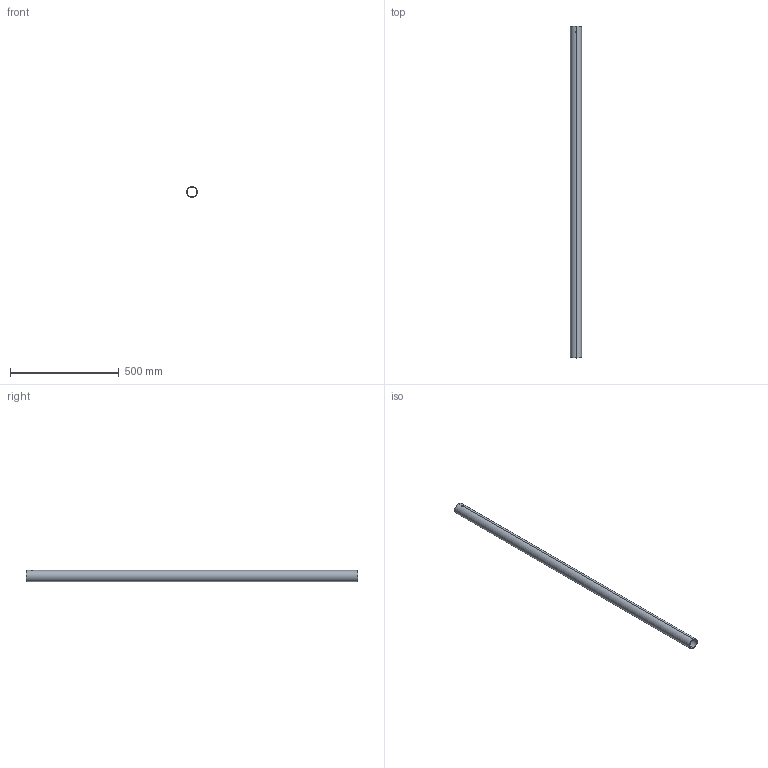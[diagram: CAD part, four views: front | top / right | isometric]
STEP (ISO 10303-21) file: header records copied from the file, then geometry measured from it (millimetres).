
FILE_DESCRIPTION (( 'STEP AP203' ), '1' );
FILE_NAME ('10-0505-00 REV 1, POLE, 2in OD x 5 FT.STEP', '2018-01-25T22:37:28', ( '' ), ( '' ), 'SwSTEP 2.0', 'SolidWorks 2012', '' );
FILE_SCHEMA (( 'CONFIG_CONTROL_DESIGN' ));
Length unit declared in the file: inch
Products named in the file (1): 10-0505-00 REV 1, POLE, 2in OD x 5 FT
Bounding box: 50.8 x 1524 x 50.8 mm (x, y, z)
Volume: 696738.7 mm3; surface area: 458158.7 mm2
Topology: 1 solids, 1 shells, 8 faces, 24 edges, 16 vertices
Faces by surface type: cylinder 6, plane 2
Entity records: 483 total; most frequent: CARTESIAN_POINT 185, ORIENTED_EDGE 48, DIRECTION 42, EDGE_CURVE 24, AXIS2_PLACEMENT_3D 17, VERTEX_POINT 16, EDGE_LOOP 10, FACE_OUTER_BOUND 8
